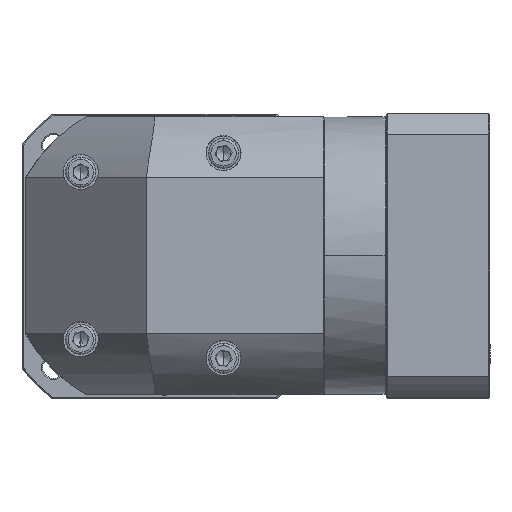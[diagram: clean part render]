
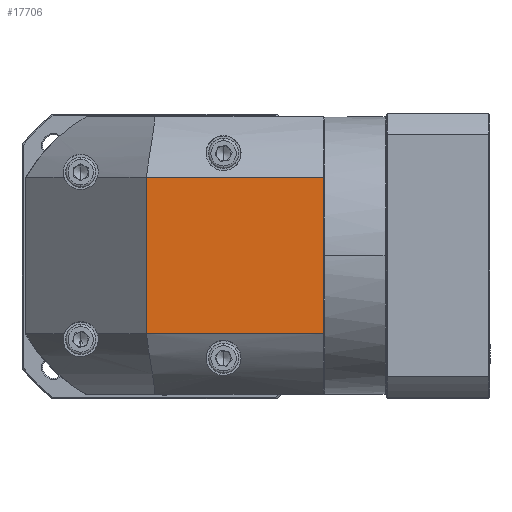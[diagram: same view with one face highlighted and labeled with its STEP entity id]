
A CAD part, top view. The second image highlights one B-rep face of the part: STEP entity #17706.
In plain terms, the highlighted planar face has unit normal (0, 0, 1).
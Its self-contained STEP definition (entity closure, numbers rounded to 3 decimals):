
#3450 = VERTEX_POINT ( 'NONE', #121701 ) ;
#4316 = VERTEX_POINT ( 'NONE', #36992 ) ;
#4719 = LINE ( 'NONE', #105843, #19243 ) ;
#11804 = CARTESIAN_POINT ( 'NONE',  ( 61.568, 79.147, 96.222 ) ) ;
#12443 = EDGE_CURVE ( 'NONE', #3450, #47862, #93649, .T. ) ;
#12719 = DIRECTION ( 'NONE',  ( 0., 0., -1. ) ) ;
#15433 = VECTOR ( 'NONE', #50652, 1000. ) ;
#15448 = LINE ( 'NONE', #36135, #114262 ) ;
#17706 = ADVANCED_FACE ( 'NONE', ( #20605 ), #54068, .F. ) ;
#17996 = CARTESIAN_POINT ( 'NONE',  ( 4.068, 111.547, 96.222 ) ) ;
#19243 = VECTOR ( 'NONE', #32154, 1000. ) ;
#20605 = FACE_OUTER_BOUND ( 'NONE', #67772, .T. ) ;
#22857 = EDGE_CURVE ( 'NONE', #72325, #3450, #59344, .T. ) ;
#28567 = EDGE_CURVE ( 'NONE', #47862, #4316, #15448, .T. ) ;
#28814 = VECTOR ( 'NONE', #77254, 1000. ) ;
#32154 = DIRECTION ( 'NONE',  ( 0., 1., 0. ) ) ;
#34568 = ORIENTED_EDGE ( 'NONE', *, *, #28567, .F. ) ;
#36135 = CARTESIAN_POINT ( 'NONE',  ( 4.068, 46.747, 96.222 ) ) ;
#36992 = CARTESIAN_POINT ( 'NONE',  ( 54.068, 46.747, 96.222 ) ) ;
#44221 = CARTESIAN_POINT ( 'NONE',  ( 127.468, 136.647, 96.222 ) ) ;
#47862 = VERTEX_POINT ( 'NONE', #122836 ) ;
#50652 = DIRECTION ( 'NONE',  ( 1., 0., 0. ) ) ;
#54068 = PLANE ( 'NONE',  #120888 ) ;
#59344 = LINE ( 'NONE', #17996, #15433 ) ;
#67772 = EDGE_LOOP ( 'NONE', ( #124941, #76749, #34568, #91491 ) ) ;
#72325 = VERTEX_POINT ( 'NONE', #86565 ) ;
#76749 = ORIENTED_EDGE ( 'NONE', *, *, #84345, .F. ) ;
#77254 = DIRECTION ( 'NONE',  ( 0., -1., 0. ) ) ;
#84345 = EDGE_CURVE ( 'NONE', #4316, #72325, #4719, .T. ) ;
#86565 = CARTESIAN_POINT ( 'NONE',  ( 54.068, 111.547, 96.222 ) ) ;
#91491 = ORIENTED_EDGE ( 'NONE', *, *, #12443, .F. ) ;
#93649 = LINE ( 'NONE', #44221, #28814 ) ;
#96542 = DIRECTION ( 'NONE',  ( 0., -1., 0. ) ) ;
#105843 = CARTESIAN_POINT ( 'NONE',  ( 54.068, 136.647, 96.222 ) ) ;
#114262 = VECTOR ( 'NONE', #118361, 1000. ) ;
#118361 = DIRECTION ( 'NONE',  ( -1., 0., 0. ) ) ;
#120888 = AXIS2_PLACEMENT_3D ( 'NONE', #11804, #12719, #96542 ) ;
#121701 = CARTESIAN_POINT ( 'NONE',  ( 127.468, 111.547, 96.222 ) ) ;
#122836 = CARTESIAN_POINT ( 'NONE',  ( 127.468, 46.747, 96.222 ) ) ;
#124941 = ORIENTED_EDGE ( 'NONE', *, *, #22857, .F. ) ;
